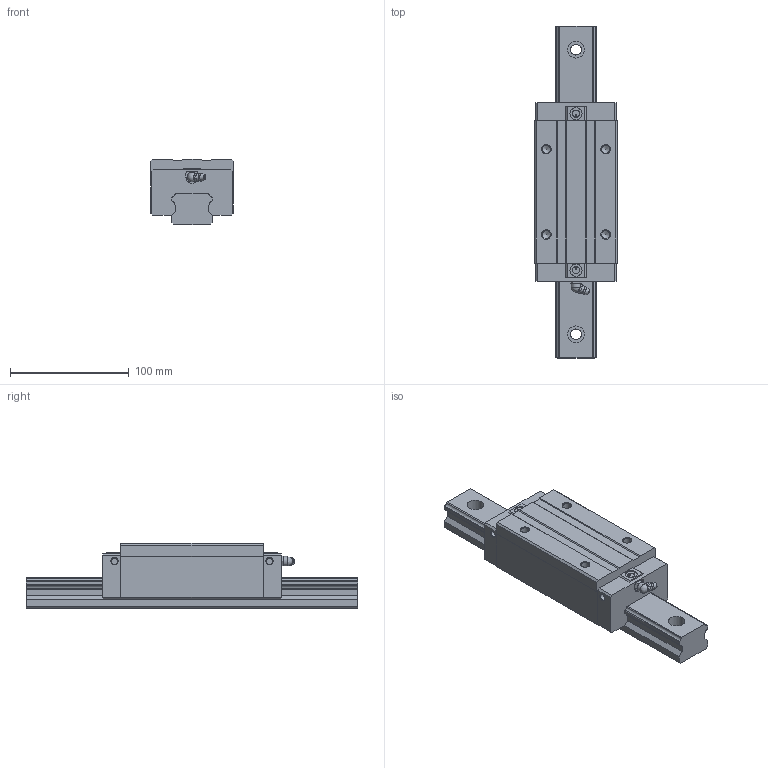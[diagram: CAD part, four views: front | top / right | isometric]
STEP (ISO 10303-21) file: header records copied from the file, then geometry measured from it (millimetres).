
FILE_DESCRIPTION(/* description */ (''),/* implementation_level */ '2;1');
FILE_NAME(/* name */ 'SME35-LSA',/* time_stamp */ '2008-10-06T10:32:17+08:00',/* author */ (''),/* organization */ (''),/* preprocessor_version */ 'ST-DEVELOPER v11',/* originating_system */ 'UGS - NX 5.0',/* authorisation */ '');
FILE_SCHEMA (('AUTOMOTIVE_DESIGN { 1 0 10303 214 1 1 1 1 }'));
Length unit declared in the file: millimetre
Products named in the file (1): jillBD1Caln8
Bounding box: 70 x 280 x 55 mm (x, y, z)
Volume: 602905.2 mm3; surface area: 86691 mm2
Topology: 3 solids, 3 shells, 187 faces, 483 edges, 318 vertices
Faces by surface type: plane 113, cylinder 49, cone 13, torus 7, sphere 4, bspline 1
Full cylindrical faces by diameter (mm): 5.2 x4, 6 x2, 6.5 x2, 6.8 x4, 8 x1, 9 x4, 10.2 x2, 14 x4
Entity records: 5719 total; most frequent: CARTESIAN_POINT 1076, DIRECTION 902, ORIENTED_EDGE 842, EDGE_CURVE 421, AXIS2_PLACEMENT_3D 312, VERTEX_POINT 302, LINE 278, VECTOR 278
